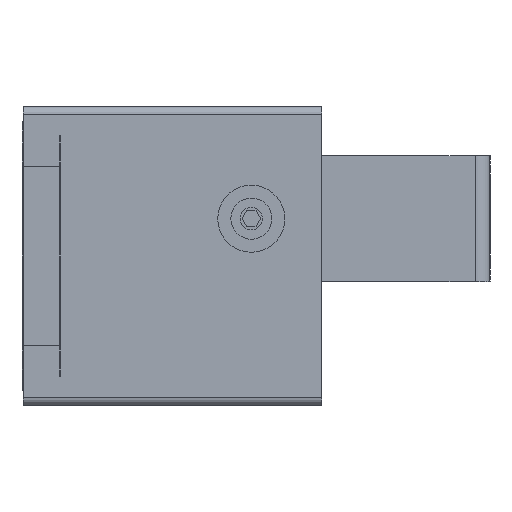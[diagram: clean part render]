
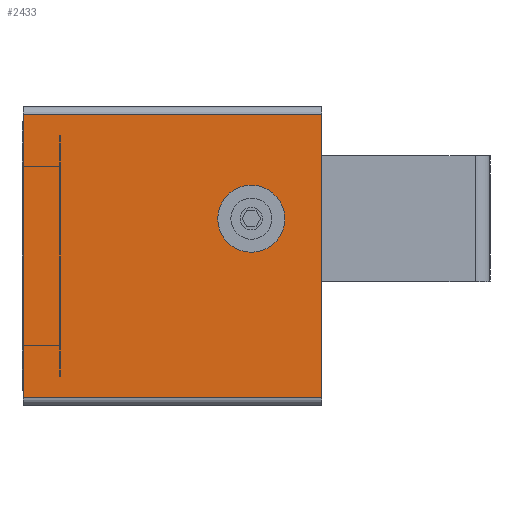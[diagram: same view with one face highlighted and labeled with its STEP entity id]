
A CAD part, left-side view. The second image highlights one B-rep face of the part: STEP entity #2433.
In plain terms, the highlighted planar face has unit normal (-1, 0, 0).
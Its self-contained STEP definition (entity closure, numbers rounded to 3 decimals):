
#90=FACE_BOUND('',#339,.T.);
#184=FACE_OUTER_BOUND('',#338,.T.);
#338=EDGE_LOOP('',(#1968,#1969,#1970,#1971));
#339=EDGE_LOOP('',(#1972));
#490=LINE('',#3780,#723);
#529=LINE('',#3897,#762);
#546=LINE('',#3941,#779);
#547=LINE('',#3943,#780);
#723=VECTOR('',#3044,10.);
#762=VECTOR('',#3161,10.);
#779=VECTOR('',#3210,10.);
#780=VECTOR('',#3213,10.);
#953=CIRCLE('',#2671,4.5);
#1074=VERTEX_POINT('',#3777);
#1075=VERTEX_POINT('',#3779);
#1113=VERTEX_POINT('',#3894);
#1114=VERTEX_POINT('',#3896);
#1127=VERTEX_POINT('',#3948);
#1343=EDGE_CURVE('',#1075,#1074,#490,.T.);
#1401=EDGE_CURVE('',#1113,#1114,#529,.T.);
#1424=EDGE_CURVE('',#1074,#1114,#546,.T.);
#1425=EDGE_CURVE('',#1075,#1113,#547,.T.);
#1427=EDGE_CURVE('',#1127,#1127,#953,.T.);
#1968=ORIENTED_EDGE('',*,*,#1343,.T.);
#1969=ORIENTED_EDGE('',*,*,#1424,.T.);
#1970=ORIENTED_EDGE('',*,*,#1401,.F.);
#1971=ORIENTED_EDGE('',*,*,#1425,.F.);
#1972=ORIENTED_EDGE('',*,*,#1427,.T.);
#2310=PLANE('',#2670);
#2433=ADVANCED_FACE('',(#184,#90),#2310,.T.);
#2670=AXIS2_PLACEMENT_3D('',#3947,#3218,#3219);
#2671=AXIS2_PLACEMENT_3D('',#3949,#3220,#3221);
#3044=DIRECTION('',(0.,0.,1.));
#3161=DIRECTION('',(0.,0.,1.));
#3210=DIRECTION('',(0.,1.,0.));
#3213=DIRECTION('',(0.,1.,0.));
#3218=DIRECTION('center_axis',(-1.,0.,0.));
#3219=DIRECTION('ref_axis',(0.,0.,
1.));
#3220=DIRECTION('center_axis',(1.,0.,0.));
#3221=DIRECTION('ref_axis',(0.,0.,
-1.));
#3777=CARTESIAN_POINT('',(-1903.177,0.,-1203.948));
#3779=CARTESIAN_POINT('',(-1903.177,0.,-1241.948));
#3780=CARTESIAN_POINT('',(-1903.177,0.,-1241.948));
#3894=CARTESIAN_POINT('',(-1903.177,40.,-1241.948));
#3896=CARTESIAN_POINT('',(-1903.177,40.,-1203.948));
#3897=CARTESIAN_POINT('',(-1903.177,40.,-1241.948));
#3941=CARTESIAN_POINT('',(-1903.177,0.,-1203.948));
#3943=CARTESIAN_POINT('',(-1903.177,0.,-1241.948));
#3947=CARTESIAN_POINT('Origin',(-1903.177,0.,
-1241.948));
#3948=CARTESIAN_POINT('',(-1903.177,9.45,-1213.448));
#3949=CARTESIAN_POINT('Origin',(-1903.177,9.45,-1217.948));
